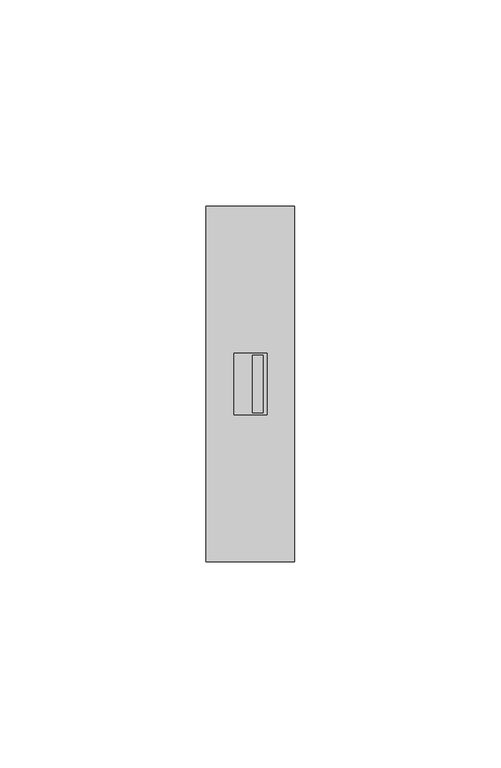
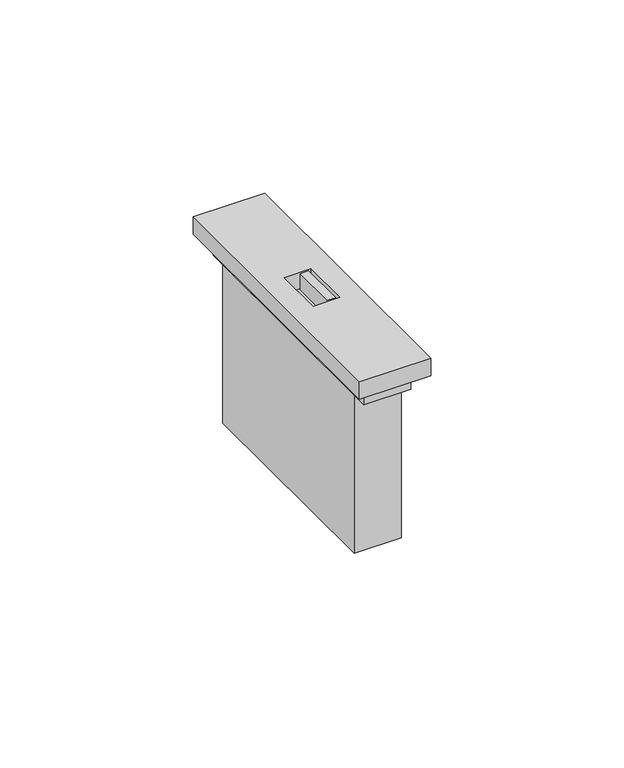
"""IFC4 building model written with IfcOpenShell, lengths in millimetres: proxy geometry, BT_LN-ConnettoriAudioVideo_K4285P : Connettore USB-A - Art. K4285P - 1M - Cover Bianco."""

from ifc_helpers import new_model, si_unit, frame, origin, origin_with_axes, place, context, project, spatial, polyline, outline, extrude, source, transform, mapped, element, save


def electrical_fixtures_e0f45b47(model_context):
    return source(origin(), model_context, "Body", "SweptSolid", [
        extrude(outline(polyline([(-7.0, 39.0), (7.0, 39.0), (7.0, -39.0), (-7.0, -39.0), (-7.0, 39.0)])), frame((0.0, 0.0, 50.0), z_axis=(0.0, 0.0, 1.0), x_axis=(1.0, 0.0, 0.0)), (0.0, 0.0, 1.0), 5.5),
        extrude(outline(polyline([(-7.0, 34.0), (7.0, 34.0), (7.0, -34.0), (-7.0, -34.0), (-7.0, 34.0)])), origin_with_axes(), (0.0, 0.0, 1.0), 50.0),
        extrude(outline(polyline([(0.5, -7.0), (0.5, 7.0), (3.0, 7.0), (3.0, -7.0), (0.5, -7.0)])), frame((0.0, 0.0, 55.5), z_axis=(0.0, 0.0, 1.0), x_axis=(1.0, 0.0, 0.0)), (0.0, 0.0, 1.0), 5.5),
        extrude(outline(polyline([(-10.7, -43.0), (-10.7, 43.0), (10.7, 43.0), (10.7, -43.0), (-10.7, -43.0)]), holes=[polyline([(4.0, 7.5), (-4.0, 7.5), (-4.0, -7.5), (4.0, -7.5), (4.0, 7.5)])]), frame((0.0, 0.0, 55.5), z_axis=(0.0, 0.0, 1.0), x_axis=(1.0, 0.0, 0.0)), (0.0, 0.0, 1.0), 5.5),
    ])


if __name__ == "__main__":
    model = new_model("IFC4")
    model_context = context("Model", 3, world=origin())
    ifc_project = project(units=[si_unit("LENGTHUNIT", "METRE", prefix="MILLI")], contexts=[model_context])
    site = spatial("IfcSite", under=ifc_project)
    building = spatial("IfcBuilding", under=site)
    placement = place(None, origin())
    electrical_fixtures_shape = electrical_fixtures_e0f45b47(model_context)
    element("IfcBuildingElementProxy", 1, Name="BT_LN-ConnettoriAudioVideo_K4285P : Connettore USB-A - Art. K4285P - 1M - Cover Bianco", ObjectType="BT_LN-ConnettoriAudioVideo_K4285P : Connettore USB-A - Art. K4285P - 1M - Cover Bianco", at=placement, inside=building, context=model_context, shape_type="MappedRepresentation", body=[
        mapped(electrical_fixtures_shape, transform((0.0, 0.0, 0.0), x_axis=(1.0, 0.0, 0.0), y_axis=(0.0, 1.0, 0.0), z_axis=(0.0, 0.0, 1.0))),
    ])
    save(model, "model.ifc")
